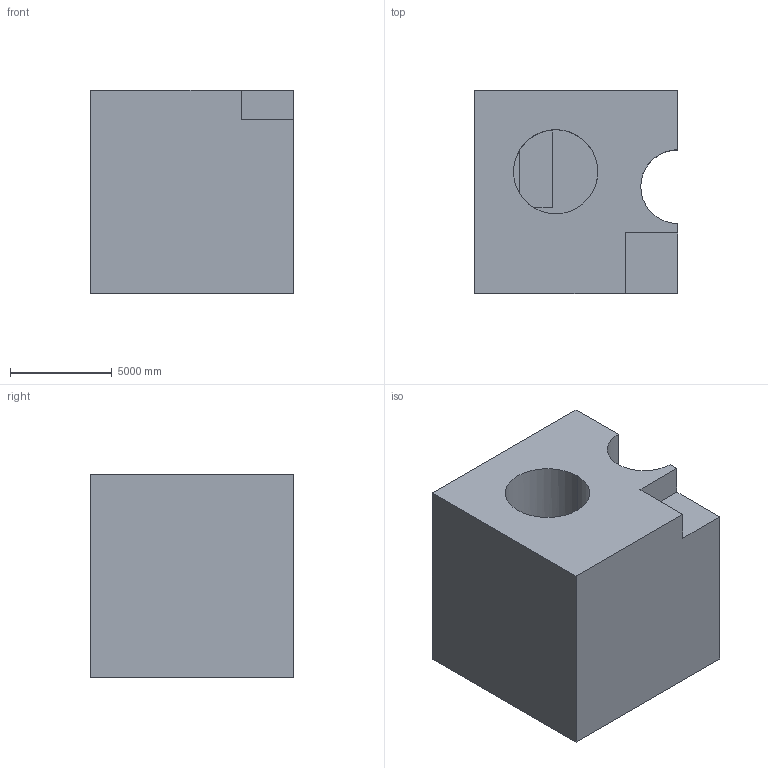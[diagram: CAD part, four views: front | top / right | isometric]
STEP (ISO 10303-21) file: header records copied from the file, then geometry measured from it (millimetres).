
FILE_DESCRIPTION (( 'STEP AP203' ), '1' );
FILE_NAME ('1330.STEP', '2022-08-18T13:48:41', ( 'user' ), ( '' ), 'SwSTEP 2.0', 'SolidWorks 2021', '' );
FILE_SCHEMA (( 'CONFIG_CONTROL_DESIGN' ));
Length unit declared in the file: centimetre
Products named in the file (1): 1330
Bounding box: 10000 x 10000 x 10000 mm (x, y, z)
Volume: 814532092779.6 mm3; surface area: 738879637.8 mm2
Topology: 1 solids, 1 shells, 21 faces, 57 edges, 38 vertices
Faces by surface type: plane 18, cylinder 3
Entity records: 742 total; most frequent: CARTESIAN_POINT 117, ORIENTED_EDGE 114, DIRECTION 111, EDGE_CURVE 57, VECTOR 47, LINE 47, VERTEX_POINT 38, AXIS2_PLACEMENT_3D 32
